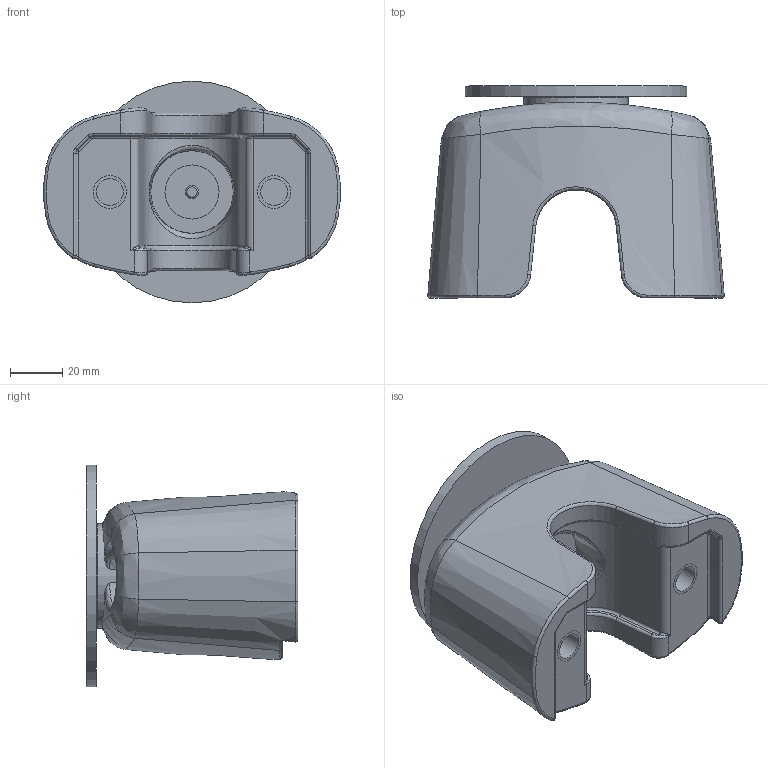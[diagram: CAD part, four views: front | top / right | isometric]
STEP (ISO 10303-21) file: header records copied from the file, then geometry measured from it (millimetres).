
FILE_DESCRIPTION (( 'STEP AP203' ), '1' );
FILE_NAME ('131011658.step', '2021-07-23T06:40:38', ( '' ), ( '' ), 'SwSTEP 2.0', 'SolidWorks 2018', '' );
FILE_SCHEMA (( 'CONFIG_CONTROL_DESIGN' ));
Length unit declared in the file: millimetre
Products named in the file (5): M05x025 EN ISO 10642; 11440_01; 11648_05; 131011658; 11658_01
Assembly tree (4 placements, depth 2):
  131011658
    11440_01
    11648_05
    M05x025 EN ISO 10642
    11658_01
Bounding box: 113.59 x 81.25 x 85 mm (x, y, z)
Volume: 289046.5 mm3; surface area: 66837.5 mm2
Topology: 8 solids, 8 shells, 222 faces, 479 edges, 285 vertices
Faces by surface type: cylinder 72, plane 54, bspline 37, torus 34, cone 22, sphere 3
Full cylindrical faces by diameter (mm): 5 x3, 5.5 x1, 8.5 x1, 9 x2, 10 x1, 10.32 x2, 10.5 x1, 12 x6, 12.7 x4, 16.5 x4, 20.7 x2, 32.5 x2, 40 x1, 85 x1
Entity records: 9435 total; most frequent: CARTESIAN_POINT 4511, DIRECTION 940, ORIENTED_EDGE 830, AXIS2_PLACEMENT_3D 423, EDGE_CURVE 415, EDGE_LOOP 304, VERTEX_POINT 273, FACE_OUTER_BOUND 257
